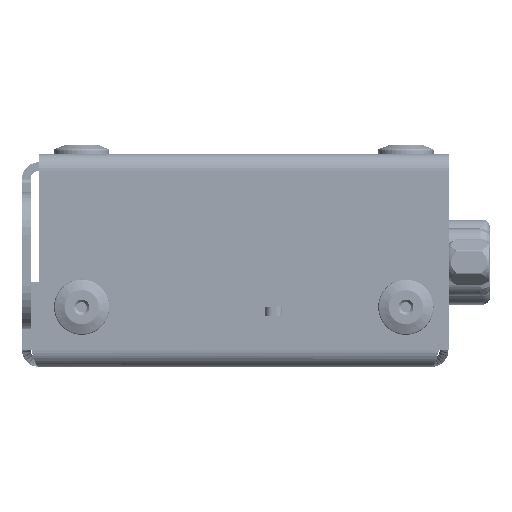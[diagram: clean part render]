
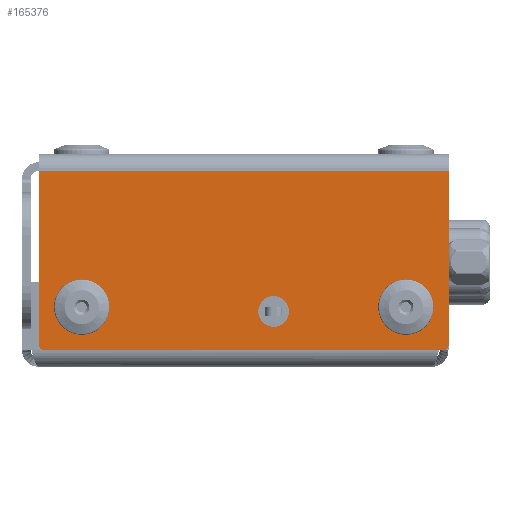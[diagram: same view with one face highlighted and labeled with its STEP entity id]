
A CAD part, left-side view. The second image highlights one B-rep face of the part: STEP entity #165376.
In plain terms, the highlighted planar face has unit normal (-1, 0, 0).
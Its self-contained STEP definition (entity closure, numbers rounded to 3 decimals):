
#893 = DIRECTION ( 'NONE',  ( 0., 0., 1. ) ) ;
#1942 = DIRECTION ( 'NONE',  ( 0., 0., 1. ) ) ;
#3904 = ORIENTED_EDGE ( 'NONE', *, *, #131922, .F. ) ;
#6802 = CARTESIAN_POINT ( 'NONE',  ( -54., -23.5, -22.5 ) ) ;
#7740 = CIRCLE ( 'NONE', #84656, 1.6 ) ;
#12099 = LINE ( 'NONE', #263906, #138620 ) ;
#12282 = DIRECTION ( 'NONE',  ( 0., 0., -1. ) ) ;
#12988 = CIRCLE ( 'NONE', #261126, 0.5 ) ;
#15971 = CIRCLE ( 'NONE', #252483, 0.5 ) ;
#17006 = FACE_BOUND ( 'NONE', #163829, .T. ) ;
#19171 = CIRCLE ( 'NONE', #214236, 1.6 ) ;
#26722 = VERTEX_POINT ( 'NONE', #161861 ) ;
#31178 = CARTESIAN_POINT ( 'NONE',  ( -54., -3.5, -18.5 ) ) ;
#32338 = CIRCLE ( 'NONE', #227367, 1.6 ) ;
#39340 = CARTESIAN_POINT ( 'NONE',  ( -54., 23.5, -23. ) ) ;
#42699 = ORIENTED_EDGE ( 'NONE', *, *, #57335, .F. ) ;
#43556 = DIRECTION ( 'NONE',  ( 0., 0., -1. ) ) ;
#47261 = DIRECTION ( 'NONE',  ( 0., -1., 0. ) ) ;
#49347 = EDGE_CURVE ( 'NONE', #284984, #26722, #186474, .T. ) ;
#52252 = VERTEX_POINT ( 'NONE', #183680 ) ;
#54646 = CARTESIAN_POINT ( 'NONE',  ( -54., 19., -18. ) ) ;
#57335 = EDGE_CURVE ( 'NONE', #315244, #161674, #19171, .T. ) ;
#57525 = DIRECTION ( 'NONE',  ( -1., 0., 0. ) ) ;
#61712 = VECTOR ( 'NONE', #47261, 1000. ) ;
#62331 = VERTEX_POINT ( 'NONE', #354685 ) ;
#62973 = CARTESIAN_POINT ( 'NONE',  ( -54., 19., -18. ) ) ;
#64772 = VERTEX_POINT ( 'NONE', #39340 ) ;
#74303 = CARTESIAN_POINT ( 'NONE',  ( -54., 24., -2. ) ) ;
#76019 = CIRCLE ( 'NONE', #347846, 1.8 ) ;
#76603 = AXIS2_PLACEMENT_3D ( 'NONE', #248334, #161399, #105804 ) ;
#82281 = VECTOR ( 'NONE', #254762, 1000. ) ;
#84656 = AXIS2_PLACEMENT_3D ( 'NONE', #317886, #177306, #203206 ) ;
#88707 = CARTESIAN_POINT ( 'NONE',  ( -54., -19., -19.6 ) ) ;
#90322 = DIRECTION ( 'NONE',  ( 0., 0., 1. ) ) ;
#98898 = CARTESIAN_POINT ( 'NONE',  ( -54., -3.5, -20.3 ) ) ;
#100277 = CARTESIAN_POINT ( 'NONE',  ( -54., 0., 0. ) ) ;
#104927 = CARTESIAN_POINT ( 'NONE',  ( -54., -24., -2. ) ) ;
#105804 = DIRECTION ( 'NONE',  ( 0., 0., 1. ) ) ;
#106980 = AXIS2_PLACEMENT_3D ( 'NONE', #100277, #129943, #215111 ) ;
#110369 = DIRECTION ( 'NONE',  ( 0., -1., 0. ) ) ;
#113092 = VERTEX_POINT ( 'NONE', #333005 ) ;
#118479 = EDGE_CURVE ( 'NONE', #284984, #113092, #12099, .T. ) ;
#120335 = DIRECTION ( 'NONE',  ( 0., 0., 1. ) ) ;
#121975 = EDGE_CURVE ( 'NONE', #113092, #64772, #15971, .T. ) ;
#122869 = VERTEX_POINT ( 'NONE', #88707 ) ;
#124433 = FACE_BOUND ( 'NONE', #250817, .T. ) ;
#128089 = FACE_BOUND ( 'NONE', #150256, .T. ) ;
#129943 = DIRECTION ( 'NONE',  ( 1., 0., 0. ) ) ;
#131922 = EDGE_CURVE ( 'NONE', #161674, #315244, #32338, .T. ) ;
#134079 = ORIENTED_EDGE ( 'NONE', *, *, #49347, .F. ) ;
#137708 = ORIENTED_EDGE ( 'NONE', *, *, #179457, .T. ) ;
#138620 = VECTOR ( 'NONE', #43556, 1000. ) ;
#142658 = CARTESIAN_POINT ( 'NONE',  ( -54., -19., -18. ) ) ;
#143626 = ORIENTED_EDGE ( 'NONE', *, *, #239944, .T. ) ;
#144511 = VERTEX_POINT ( 'NONE', #167709 ) ;
#145682 = DIRECTION ( 'NONE',  ( -1., 0., 0. ) ) ;
#150256 = EDGE_LOOP ( 'NONE', ( #3904, #42699 ) ) ;
#154566 = EDGE_LOOP ( 'NONE', ( #231523, #160480, #143626, #137708, #186934, #134079 ) ) ;
#156548 = VERTEX_POINT ( 'NONE', #351943 ) ;
#160480 = ORIENTED_EDGE ( 'NONE', *, *, #121975, .T. ) ;
#161399 = DIRECTION ( 'NONE',  ( -1., 0., 0. ) ) ;
#161674 = VERTEX_POINT ( 'NONE', #292847 ) ;
#161861 = CARTESIAN_POINT ( 'NONE',  ( -54., -24., -2. ) ) ;
#163829 = EDGE_LOOP ( 'NONE', ( #280686, #187671 ) ) ;
#165376 = ADVANCED_FACE ( 'NONE', ( #128089, #124433, #17006, #240982 ), #353899, .F. ) ;
#167193 = ORIENTED_EDGE ( 'NONE', *, *, #169422, .F. ) ;
#167709 = CARTESIAN_POINT ( 'NONE',  ( -54., -24., -22.5 ) ) ;
#168967 = VERTEX_POINT ( 'NONE', #98898 ) ;
#169422 = EDGE_CURVE ( 'NONE', #122869, #62331, #232424, .T. ) ;
#177306 = DIRECTION ( 'NONE',  ( -1., 0., 0. ) ) ;
#179457 = EDGE_CURVE ( 'NONE', #52252, #144511, #12988, .T. ) ;
#183680 = CARTESIAN_POINT ( 'NONE',  ( -54., -23.5, -23. ) ) ;
#186474 = LINE ( 'NONE', #104927, #222953 ) ;
#186934 = ORIENTED_EDGE ( 'NONE', *, *, #216418, .T. ) ;
#187671 = ORIENTED_EDGE ( 'NONE', *, *, #212996, .F. ) ;
#196199 = EDGE_CURVE ( 'NONE', #156548, #168967, #242009, .T. ) ;
#197178 = DIRECTION ( 'NONE',  ( -1., 0., 0. ) ) ;
#203206 = DIRECTION ( 'NONE',  ( 0., 0., 1. ) ) ;
#212996 = EDGE_CURVE ( 'NONE', #168967, #156548, #76019, .T. ) ;
#214236 = AXIS2_PLACEMENT_3D ( 'NONE', #62973, #57525, #120335 ) ;
#215111 = DIRECTION ( 'NONE',  ( 0., 0., -1. ) ) ;
#216259 = DIRECTION ( 'NONE',  ( -1., 0., 0. ) ) ;
#216418 = EDGE_CURVE ( 'NONE', #144511, #26722, #282517, .T. ) ;
#222953 = VECTOR ( 'NONE', #110369, 1000. ) ;
#227367 = AXIS2_PLACEMENT_3D ( 'NONE', #54646, #197178, #893 ) ;
#231523 = ORIENTED_EDGE ( 'NONE', *, *, #118479, .T. ) ;
#232424 = CIRCLE ( 'NONE', #297683, 1.6 ) ;
#239944 = EDGE_CURVE ( 'NONE', #64772, #52252, #293439, .T. ) ;
#240982 = FACE_OUTER_BOUND ( 'NONE', #154566, .T. ) ;
#242009 = CIRCLE ( 'NONE', #76603, 1.8 ) ;
#248334 = CARTESIAN_POINT ( 'NONE',  ( -54., -3.5, -18.5 ) ) ;
#250817 = EDGE_LOOP ( 'NONE', ( #300963, #167193 ) ) ;
#251939 = DIRECTION ( 'NONE',  ( -1., 0., 0. ) ) ;
#252483 = AXIS2_PLACEMENT_3D ( 'NONE', #306736, #216259, #358749 ) ;
#254762 = DIRECTION ( 'NONE',  ( 0., 0., 1. ) ) ;
#255051 = CARTESIAN_POINT ( 'NONE',  ( -54., 19., -19.6 ) ) ;
#261126 = AXIS2_PLACEMENT_3D ( 'NONE', #6802, #145682, #12282 ) ;
#263906 = CARTESIAN_POINT ( 'NONE',  ( -54., 24., 0. ) ) ;
#280686 = ORIENTED_EDGE ( 'NONE', *, *, #196199, .F. ) ;
#282517 = LINE ( 'NONE', #306614, #82281 ) ;
#284984 = VERTEX_POINT ( 'NONE', #74303 ) ;
#292847 = CARTESIAN_POINT ( 'NONE',  ( -54., 19., -16.4 ) ) ;
#293439 = LINE ( 'NONE', #300780, #61712 ) ;
#297683 = AXIS2_PLACEMENT_3D ( 'NONE', #142658, #251939, #1942 ) ;
#300780 = CARTESIAN_POINT ( 'NONE',  ( -54., 0., -23. ) ) ;
#300963 = ORIENTED_EDGE ( 'NONE', *, *, #326277, .F. ) ;
#306614 = CARTESIAN_POINT ( 'NONE',  ( -54., -24., 0. ) ) ;
#306736 = CARTESIAN_POINT ( 'NONE',  ( -54., 23.5, -22.5 ) ) ;
#315244 = VERTEX_POINT ( 'NONE', #255051 ) ;
#316126 = DIRECTION ( 'NONE',  ( -1., 0., 0. ) ) ;
#317886 = CARTESIAN_POINT ( 'NONE',  ( -54., -19., -18. ) ) ;
#326277 = EDGE_CURVE ( 'NONE', #62331, #122869, #7740, .T. ) ;
#333005 = CARTESIAN_POINT ( 'NONE',  ( -54., 24., -22.5 ) ) ;
#347846 = AXIS2_PLACEMENT_3D ( 'NONE', #31178, #316126, #90322 ) ;
#351943 = CARTESIAN_POINT ( 'NONE',  ( -54., -3.5, -16.7 ) ) ;
#353899 = PLANE ( 'NONE',  #106980 ) ;
#354685 = CARTESIAN_POINT ( 'NONE',  ( -54., -19., -16.4 ) ) ;
#358749 = DIRECTION ( 'NONE',  ( 0., 0., -1. ) ) ;
